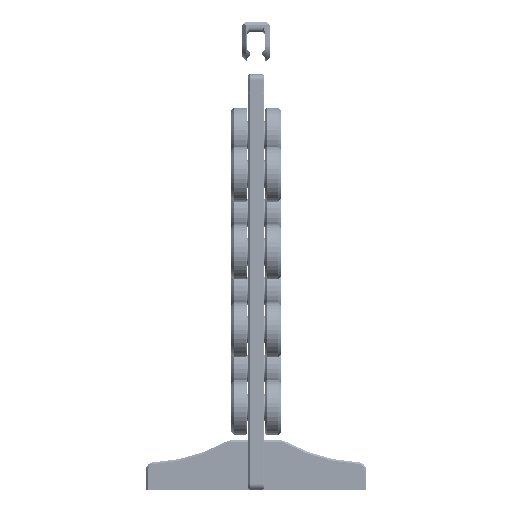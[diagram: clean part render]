
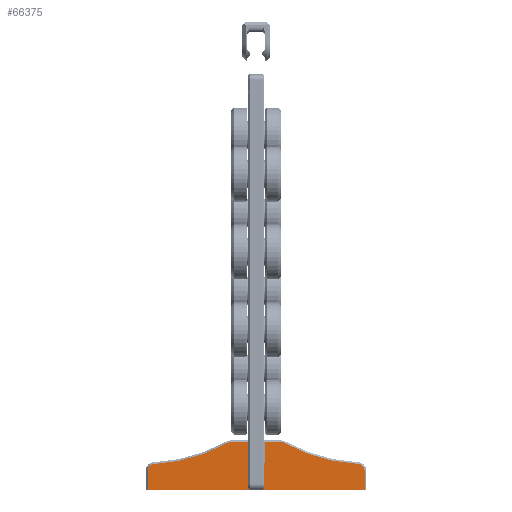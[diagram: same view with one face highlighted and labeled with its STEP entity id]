
A CAD part, left-side view. The second image highlights one B-rep face of the part: STEP entity #66375.
In plain terms, the highlighted planar face has unit normal (-1, 0, 0).
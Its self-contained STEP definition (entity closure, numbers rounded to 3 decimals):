
#6323=CIRCLE('',#71464,2.4);
#6324=CIRCLE('',#71466,60.85);
#6327=CIRCLE('',#71470,2.4);
#6343=CIRCLE('',#71512,2.4);
#6344=CIRCLE('',#71514,60.85);
#6345=CIRCLE('',#71516,2.4);
#9521=FACE_OUTER_BOUND('',#13926,.T.);
#13926=EDGE_LOOP('',(#48573,#48574,#48575,#48576,#48577,#48578,#48579,#48580,
#48581,#48582,#48583,#48584,#48585,#48586));
#19324=LINE('',#102154,#24254);
#19329=LINE('',#102177,#24259);
#19339=LINE('',#102203,#24269);
#19372=LINE('',#102293,#24302);
#19376=LINE('',#102300,#24306);
#19380=LINE('',#102314,#24310);
#19381=LINE('',#102316,#24311);
#19382=LINE('',#102317,#24312);
#24254=VECTOR('',#81742,10.);
#24259=VECTOR('',#81767,10.);
#24269=VECTOR('',#81795,10.);
#24302=VECTOR('',#81886,10.);
#24306=VECTOR('',#81892,10.);
#24310=VECTOR('',#81910,10.);
#24311=VECTOR('',#81913,10.);
#24312=VECTOR('',#81914,10.);
#28832=VERTEX_POINT('',#102147);
#28835=VERTEX_POINT('',#102152);
#28837=VERTEX_POINT('',#102158);
#28839=VERTEX_POINT('',#102163);
#28841=VERTEX_POINT('',#102170);
#28843=VERTEX_POINT('',#102175);
#28850=VERTEX_POINT('',#102202);
#28877=VERTEX_POINT('',#102290);
#28878=VERTEX_POINT('',#102292);
#28879=VERTEX_POINT('',#102296);
#28880=VERTEX_POINT('',#102298);
#28881=VERTEX_POINT('',#102302);
#28882=VERTEX_POINT('',#102306);
#28883=VERTEX_POINT('',#102310);
#35993=EDGE_CURVE('',#28835,#28832,#19324,.T.);
#35996=EDGE_CURVE('',#28837,#28835,#6323,.T.);
#35998=EDGE_CURVE('',#28839,#28837,#6324,.T.);
#36002=EDGE_CURVE('',#28841,#28839,#6327,.T.);
#36004=EDGE_CURVE('',#28843,#28841,#19329,.T.);
#36017=EDGE_CURVE('',#28850,#28832,#19339,.T.);
#36062=EDGE_CURVE('',#28878,#28877,#19372,.T.);
#36066=EDGE_CURVE('',#28880,#28879,#19376,.T.);
#36068=EDGE_CURVE('',#28881,#28880,#6343,.T.);
#36070=EDGE_CURVE('',#28882,#28881,#6344,.T.);
#36072=EDGE_CURVE('',#28883,#28882,#6345,.T.);
#36073=EDGE_CURVE('',#28878,#28883,#19380,.T.);
#36074=EDGE_CURVE('',#28843,#28879,#19381,.T.);
#36075=EDGE_CURVE('',#28877,#28850,#19382,.T.);
#48573=ORIENTED_EDGE('',*,*,#36004,.F.);
#48574=ORIENTED_EDGE('',*,*,#36074,.T.);
#48575=ORIENTED_EDGE('',*,*,#36066,.F.);
#48576=ORIENTED_EDGE('',*,*,#36068,.F.);
#48577=ORIENTED_EDGE('',*,*,#36070,.F.);
#48578=ORIENTED_EDGE('',*,*,#36072,.F.);
#48579=ORIENTED_EDGE('',*,*,#36073,.F.);
#48580=ORIENTED_EDGE('',*,*,#36062,.T.);
#48581=ORIENTED_EDGE('',*,*,#36075,.T.);
#48582=ORIENTED_EDGE('',*,*,#36017,.T.);
#48583=ORIENTED_EDGE('',*,*,#35993,.F.);
#48584=ORIENTED_EDGE('',*,*,#35996,.F.);
#48585=ORIENTED_EDGE('',*,*,#35998,.F.);
#48586=ORIENTED_EDGE('',*,*,#36002,.F.);
#64336=PLANE('',#71518);
#66375=ADVANCED_FACE('',(#9521),#64336,.F.);
#71464=AXIS2_PLACEMENT_3D('',#102160,#81748,#81749);
#71466=AXIS2_PLACEMENT_3D('',#102165,#81753,#81754);
#71470=AXIS2_PLACEMENT_3D('',#102172,#81762,#81763);
#71512=AXIS2_PLACEMENT_3D('',#102304,#81896,#81897);
#71514=AXIS2_PLACEMENT_3D('',#102308,#81901,#81902);
#71516=AXIS2_PLACEMENT_3D('',#102312,#81906,#81907);
#71518=AXIS2_PLACEMENT_3D('',#102315,#81911,#81912);
#81742=DIRECTION('',(0.,-1.,0.));
#81748=DIRECTION('center_axis',(1.,0.,0.));
#81749=DIRECTION('ref_axis',(0.,0.251,0.968));
#81753=DIRECTION('center_axis',(-1.,0.,0.));
#81754=DIRECTION('ref_axis',(0.,-0.498,-0.867));
#81762=DIRECTION('center_axis',(1.,0.,0.));
#81763=DIRECTION('ref_axis',(0.,0.724,0.69));
#81767=DIRECTION('',(0.,0.,1.));
#81795=DIRECTION('',(0.,0.,1.));
#81886=DIRECTION('',(0.,0.,-1.));
#81892=DIRECTION('',(0.,0.,-1.));
#81896=DIRECTION('center_axis',(1.,0.,0.));
#81897=DIRECTION('ref_axis',(0.,-0.724,0.69));
#81901=DIRECTION('center_axis',(-1.,0.,0.));
#81902=DIRECTION('ref_axis',(0.,0.,-1.));
#81906=DIRECTION('center_axis',(1.,0.,0.));
#81907=DIRECTION('ref_axis',(0.,-0.251,0.968));
#81910=DIRECTION('',(0.,-1.,0.));
#81911=DIRECTION('center_axis',(1.,0.,0.));
#81912=DIRECTION('ref_axis',(0.,1.,0.));
#81913=DIRECTION('',(0.,-1.,0.));
#81914=DIRECTION('',(0.,1.,0.));
#102147=CARTESIAN_POINT('',(-86.853,3.1,17.4));
#102152=CARTESIAN_POINT('',(-86.853,9.21,17.4));
#102154=CARTESIAN_POINT('',(-86.853,5.,17.4));
#102158=CARTESIAN_POINT('',(-86.853,10.379,17.096));
#102160=CARTESIAN_POINT('Origin',(-86.853,9.21,15.));
#102163=CARTESIAN_POINT('',(-86.853,37.114,9.468));
#102165=CARTESIAN_POINT('Origin',(-86.853,40.,70.25));
#102170=CARTESIAN_POINT('',(-86.853,39.4,7.071));
#102172=CARTESIAN_POINT('Origin',(-86.853,37.,7.071));
#102175=CARTESIAN_POINT('',(-86.853,39.4,0.));
#102177=CARTESIAN_POINT('',(-86.853,39.4,4.5));
#102202=CARTESIAN_POINT('',(-86.853,3.1,9.9));
#102203=CARTESIAN_POINT('',(-86.853,3.1,13.5));
#102290=CARTESIAN_POINT('',(-86.853,-3.1,9.9));
#102292=CARTESIAN_POINT('',(-86.853,-3.1,17.4));
#102293=CARTESIAN_POINT('',(-86.853,-3.1,9.5));
#102296=CARTESIAN_POINT('',(-86.853,-39.4,0.));
#102298=CARTESIAN_POINT('',(-86.853,-39.4,7.071));
#102300=CARTESIAN_POINT('',(-86.853,-39.4,9.5));
#102302=CARTESIAN_POINT('',(-86.853,-37.114,9.468));
#102304=CARTESIAN_POINT('Origin',(-86.853,-37.,7.071));
#102306=CARTESIAN_POINT('',(-86.853,-10.379,17.096));
#102308=CARTESIAN_POINT('Origin',(-86.853,-40.,70.25));
#102310=CARTESIAN_POINT('',(-86.853,-9.21,17.4));
#102312=CARTESIAN_POINT('Origin',(-86.853,-9.21,15.));
#102314=CARTESIAN_POINT('',(-86.853,-1.5,17.4));
#102315=CARTESIAN_POINT('Origin',(-86.853,0.,
9.));
#102316=CARTESIAN_POINT('',(-86.853,40.,0.));
#102317=CARTESIAN_POINT('',(-86.853,1.5,9.9));
